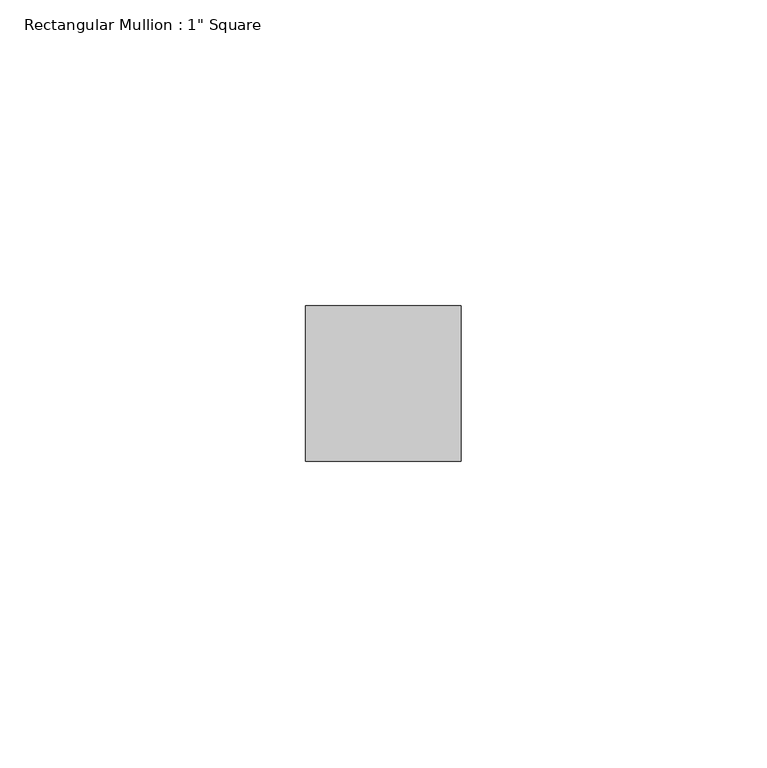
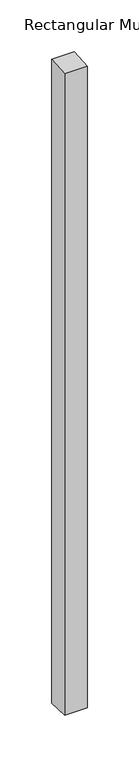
"""IFC4 building model written with IfcOpenShell, lengths in millimetres: member geometry."""

from ifc_helpers import new_model, si_unit, frame, origin, place, context, project, spatial, polyline, outline, extrude, source, transform, mapped, element, save


def member_27f65fe7(model_context):
    return source(origin(), model_context, "Body", "SweptSolid", [
        extrude(outline(polyline([(-12.7, -1.0620274), (12.7, 1.0620274), (12.7, -762.7481296), (-12.7, -761.2518704), (-12.7, -1.0620274)])), frame((-12.7, 0.0, 0.0), z_axis=(1.0, 0.0, 0.0), x_axis=(0.0, 1.0, 0.0)), (0.0, 0.0, 1.0), 25.4),
    ])


if __name__ == "__main__":
    model = new_model("IFC4")
    model_context = context("Model", 3, world=origin())
    ifc_project = project(units=[si_unit("LENGTHUNIT", "METRE", prefix="MILLI")], contexts=[model_context])
    site = spatial("IfcSite", under=ifc_project)
    building = spatial("IfcBuilding", under=site)
    placement = place(None, origin())
    member_shape = member_27f65fe7(model_context)
    element("IfcMember", 1, ObjectType="Rectangular Mullion : 1\" Square", at=placement, inside=building, context=model_context, shape_type="MappedRepresentation", body=[
        mapped(member_shape, transform((0.0, 0.0, 0.0), x_axis=(1.0, 0.0, 0.0), y_axis=(0.0, 1.0, 0.0), z_axis=(0.0, 0.0, 1.0))),
    ])
    save(model, "model.ifc")
